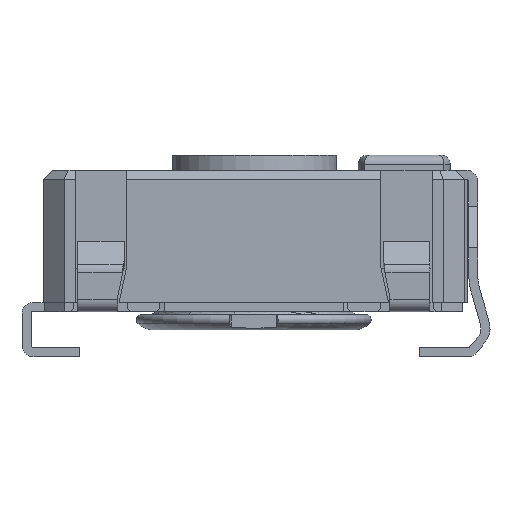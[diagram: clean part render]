
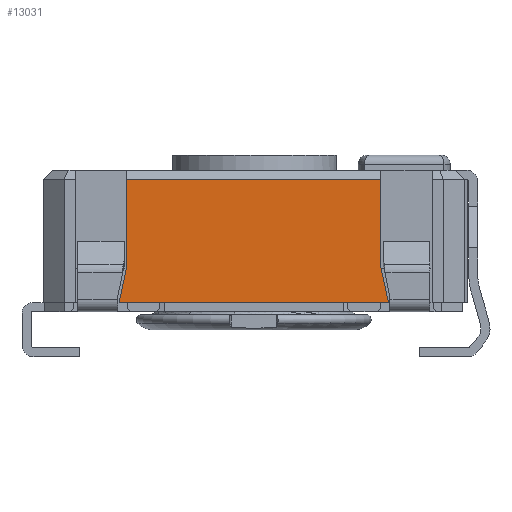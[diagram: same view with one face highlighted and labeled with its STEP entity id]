
A CAD part, left-side view. The second image highlights one B-rep face of the part: STEP entity #13031.
In plain terms, the highlighted planar face has unit normal (-1, 0, 0).
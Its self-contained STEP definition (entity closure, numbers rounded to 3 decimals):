
#848=FACE_OUTER_BOUND('',#1515,.T.);
#1515=EDGE_LOOP('',(#11037,#11038,#11039,#11040,#11041,#11042));
#2119=LINE('',#19094,#3543);
#2564=LINE('',#20478,#3988);
#2568=LINE('',#20485,#3992);
#2920=LINE('',#21238,#4344);
#2925=LINE('',#21246,#4349);
#2926=LINE('',#21248,#4350);
#3543=VECTOR('',#15329,10.);
#3988=VECTOR('',#16408,10.);
#3992=VECTOR('',#16414,10.);
#4344=VECTOR('',#17150,10.);
#4349=VECTOR('',#17157,10.);
#4350=VECTOR('',#17160,10.);
#5237=VERTEX_POINT('',#19091);
#5238=VERTEX_POINT('',#19093);
#5665=VERTEX_POINT('',#20475);
#5666=VERTEX_POINT('',#20477);
#5668=VERTEX_POINT('',#20483);
#5863=VERTEX_POINT('',#21244);
#6624=EDGE_CURVE('',#5237,#5238,#2119,.T.);
#7229=EDGE_CURVE('',#5665,#5666,#2564,.T.);
#7233=EDGE_CURVE('',#5665,#5668,#2568,.T.);
#7608=EDGE_CURVE('',#5238,#5668,#2920,.T.);
#7613=EDGE_CURVE('',#5863,#5237,#2925,.T.);
#7614=EDGE_CURVE('',#5863,#5666,#2926,.T.);
#11037=ORIENTED_EDGE('',*,*,#7229,.F.);
#11038=ORIENTED_EDGE('',*,*,#7233,.T.);
#11039=ORIENTED_EDGE('',*,*,#7608,.F.);
#11040=ORIENTED_EDGE('',*,*,#6624,.F.);
#11041=ORIENTED_EDGE('',*,*,#7613,.F.);
#11042=ORIENTED_EDGE('',*,*,#7614,.T.);
#11765=PLANE('',#13994);
#13031=ADVANCED_FACE('',(#848),#11765,.T.);
#13994=AXIS2_PLACEMENT_3D('',#21282,#17206,#17207);
#15329=DIRECTION('',(0.,1.,0.));
#16408=DIRECTION('',(0.,-1.,0.));
#16414=DIRECTION('',(0.,0.,-1.));
#17150=DIRECTION('',(0.,-0.208,0.978));
#17157=DIRECTION('',(0.,-0.208,-0.978));
#17160=DIRECTION('',(0.,0.,1.));
#17206=DIRECTION('center_axis',(-1.,0.,0.));
#17207=DIRECTION('ref_axis',(0.,0.,1.));
#19091=CARTESIAN_POINT('',(-7.,-4.425,-2.25));
#19093=CARTESIAN_POINT('',(-7.,4.525,-2.25));
#19094=CARTESIAN_POINT('',(-7.,-6.25,-2.25));
#20475=CARTESIAN_POINT('',(-7.,4.275,1.85));
#20477=CARTESIAN_POINT('',(-7.,-4.175,1.85));
#20478=CARTESIAN_POINT('',(-7.,-3.1,1.85));
#20483=CARTESIAN_POINT('',(-7.,4.275,-1.074));
#20485=CARTESIAN_POINT('',(-7.,4.275,-2.25));
#21238=CARTESIAN_POINT('',(-7.,4.525,-2.25));
#21244=CARTESIAN_POINT('',(-7.,-4.175,-1.074));
#21246=CARTESIAN_POINT('',(-7.,-4.175,-1.074));
#21248=CARTESIAN_POINT('',(-7.,-4.175,-2.25));
#21282=CARTESIAN_POINT('Origin',(-7.,-6.25,-2.25));
